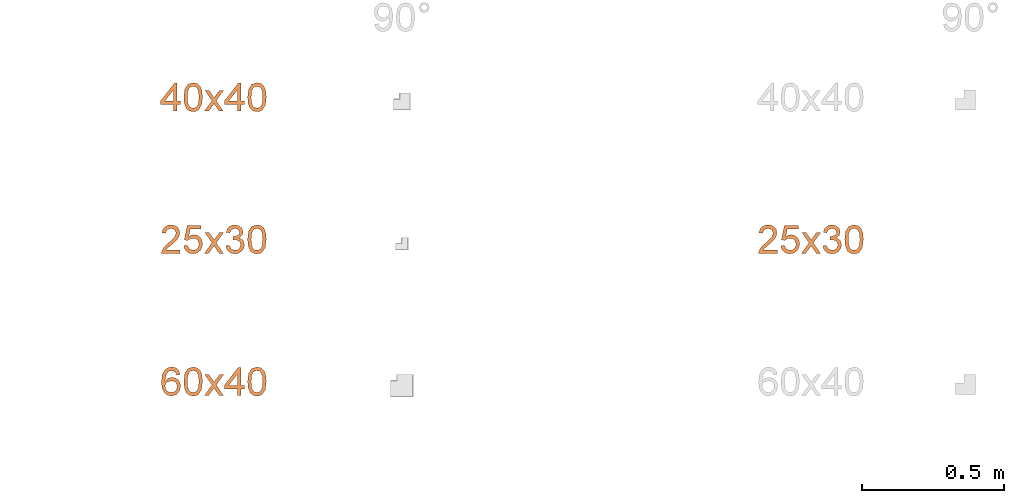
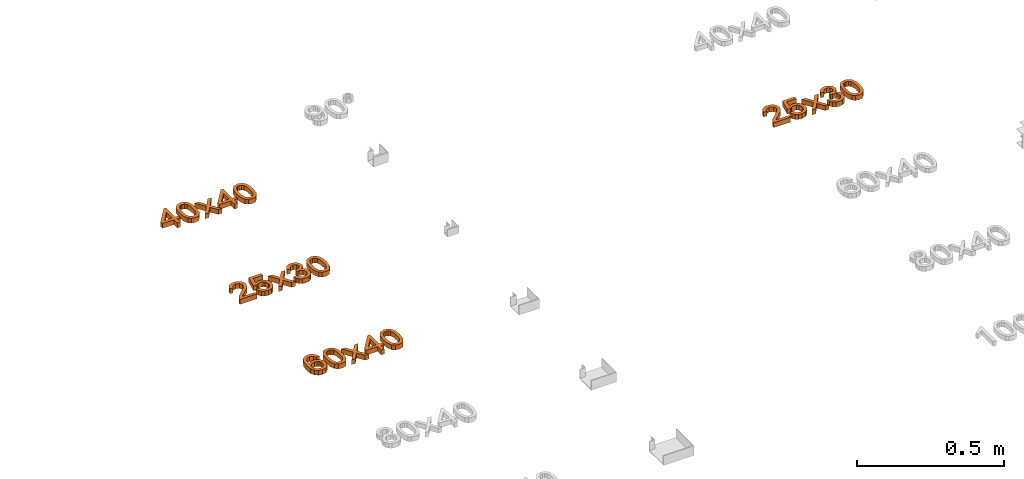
# One storey, part 49 of 71: 4 proxies.
"""IFC2X3 building model written with IfcOpenShell, lengths in millimetres."""

import ifcopenshell
import ifcopenshell.guid

model = None  # the IFC model being written
_history = None  # IfcOwnerHistory: only IFC2X3 demands one
_inside = {}  # id of a spatial element -> (the spatial element, [elements in it])
_under = {}  # id of a project, library or spatial element -> (it, [spatial elements below it])
_declared = {}  # id of a project -> (the project, [libraries it declares])
_typed = {}  # id of a type object -> (the type object, [elements of that type])
_made_of = {}  # id of a material, layer set ... -> (it, [elements and type objects made of it])


def new_model(schema):
    """Start an empty IFC model of exactly this schema.

    Asked for "IFC4X3", IfcOpenShell would pick the latest addendum, in which some entities
    have other attributes; the version numbers below select the first issue.
    IFC2X3 requires an IfcOwnerHistory on every rooted entity: one is made here for all.
    """
    global model, _history
    if schema == "IFC4X3":
        model = ifcopenshell.file(schema_version=(4, 3, 0, 0))
    else:
        model = ifcopenshell.file(schema=schema)
    _inside.clear()
    _under.clear()
    _declared.clear()
    _typed.clear()
    _made_of.clear()
    _history = None
    if model.schema == "IFC2X3":
        org = make("IfcOrganization", Name="unknown")
        user = make(
            "IfcPersonAndOrganization",
            ThePerson=make("IfcPerson", FamilyName="unknown"),
            TheOrganization=org,
        )
        app = make(
            "IfcApplication",
            ApplicationDeveloper=org,
            Version="unknown",
            ApplicationFullName="unknown",
            ApplicationIdentifier="unknown",
        )
        _history = make(
            "IfcOwnerHistory",
            OwningUser=user,
            OwningApplication=app,
            ChangeAction="ADDED",
            CreationDate=0,
        )
    return model


def make(cls, **values):
    """One entity of the class cls with the attributes given. An attribute that is None is left unset."""
    return model.create_entity(
        cls, **{name: value for name, value in values.items() if value is not None}
    )


def entity(cls, *values):
    """Any entity or typed value of the class cls, its attributes in the order of the schema. None: left unset."""
    e = model.create_entity(cls)
    for i, value in enumerate(values):
        if value is not None:
            e[i] = value
    return e


def rooted(cls, **values):
    """An entity with a GlobalId (a new one), such as an element, a storey or a relation."""
    return make(cls, GlobalId=ifcopenshell.guid.new(), OwnerHistory=_history, **values)


def si_unit(unit_type, name, prefix=None):
    """IfcSIUnit, for example si_unit("LENGTHUNIT", "METRE", prefix="MILLI")."""
    return make("IfcSIUnit", UnitType=unit_type, Prefix=prefix, Name=name)


def converted_unit(unit_type, name, factor, base, dimensions=None, offset=None):
    """IfcConversionBasedUnit, such as the inch: factor (a typed value) times the base unit."""
    return make(
        "IfcConversionBasedUnit"
        if offset is None
        else "IfcConversionBasedUnitWithOffset",
        ConversionOffset=offset,
        Dimensions=None
        if dimensions is None
        else entity("IfcDimensionalExponents", *dimensions),
        UnitType=unit_type,
        Name=name,
        ConversionFactor=make(
            "IfcMeasureWithUnit", ValueComponent=factor, UnitComponent=base
        ),
    )


def derived_unit(unit_type, elements):
    """IfcDerivedUnit: a product of units, each with its exponent."""
    return make(
        "IfcDerivedUnit",
        Elements=[
            make("IfcDerivedUnitElement", Unit=unit, Exponent=power)
            for unit, power in elements
        ],
        UnitType=unit_type,
    )


def assignment(units):
    """IfcUnitAssignment: the units of a project."""
    return None if units is None else make("IfcUnitAssignment", Units=units)


def point(xyz):
    """IfcCartesianPoint."""
    return None if xyz is None else make("IfcCartesianPoint", Coordinates=xyz)


def direction(xyz):
    """IfcDirection."""
    return None if xyz is None else make("IfcDirection", DirectionRatios=xyz)


def frame(location, z_axis=None, x_axis=None):
    """IfcAxis2Placement3D, a coordinate frame: its origin and axes. An axis left out is left unset."""
    return make(
        "IfcAxis2Placement3D",
        Location=point(location),
        Axis=direction(z_axis),
        RefDirection=direction(x_axis),
    )


def origin():
    """The frame at (0, 0, 0) with its axes left unset."""
    return frame((0.0, 0.0, 0.0))


def place(relative_to, where):
    """IfcLocalPlacement: puts the frame where relative to a parent placement (None: the world)."""
    return make(
        "IfcLocalPlacement", PlacementRelTo=relative_to, RelativePlacement=where
    )


def context(
    kind, dimensions, precision=None, world=None, true_north=None, identifier=None
):
    """IfcGeometricRepresentationContext, for example the 3D "Model" context."""
    return make(
        "IfcGeometricRepresentationContext",
        ContextIdentifier=identifier,
        ContextType=kind,
        CoordinateSpaceDimension=dimensions,
        Precision=precision,
        WorldCoordinateSystem=world,
        TrueNorth=true_north,
    )


def subcontext(parent, identifier, kind, view, scale=None):
    """IfcGeometricRepresentationSubContext, for example "Body" below "Model"."""
    return make(
        "IfcGeometricRepresentationSubContext",
        ContextIdentifier=identifier,
        ContextType=kind,
        ParentContext=parent,
        TargetScale=scale,
        TargetView=view,
    )


def project(units=None, contexts=None):
    """IfcProject with its units and contexts."""
    return rooted(
        "IfcProject",
        Name="project",
        RepresentationContexts=contexts,
        UnitsInContext=assignment(units),
    )


def spatial(cls, under=None, at=None, **own):
    """A site, building, storey or space (cls), placed at a placement, below another one or the project."""
    s = rooted(cls, ObjectPlacement=at, **own)
    if under is not None:
        _under.setdefault(under.id(), (under, []))[1].append(s)
    return s


def polyline(points):
    """IfcPolyline through the points."""
    return make("IfcPolyline", Points=[point(p) for p in points])


def outline(outer, holes=None, kind="AREA"):
    """IfcArbitraryClosedProfileDef: a profile drawn as a closed curve; with holes, ...WithVoids."""
    if holes is None:
        return make("IfcArbitraryClosedProfileDef", ProfileType=kind, OuterCurve=outer)
    return make(
        "IfcArbitraryProfileDefWithVoids",
        ProfileType=kind,
        OuterCurve=outer,
        InnerCurves=holes,
    )


def extrude(swept, where, along, depth):
    """IfcExtrudedAreaSolid: the profile swept, set in the frame where, extruded along a direction by depth."""
    return make(
        "IfcExtrudedAreaSolid",
        SweptArea=swept,
        Position=where,
        ExtrudedDirection=direction(along),
        Depth=depth,
    )


def shape(context_of_items, identifier, shape_type, items):
    """IfcShapeRepresentation: the items that make up one representation, for example the "Body"."""
    return make(
        "IfcShapeRepresentation",
        ContextOfItems=context_of_items,
        RepresentationIdentifier=identifier,
        RepresentationType=shape_type,
        Items=items,
    )


def made_of(thing, what):
    """Note that an element or type object is made of a material, layer set ...; save() writes the relation."""
    if what is not None:
        _made_of.setdefault(what.id(), (what, []))[1].append(thing)
    return thing


def element(
    cls,
    number,
    at=None,
    inside=None,
    cuts=None,
    type_object=None,
    material=None,
    context=None,
    identifier="Body",
    shape_type=None,
    held_by="IfcProductDefinitionShape",
    body=None,
    shapes=None,
    **own,
):
    """One element of the class cls, such as IfcWall. Its Tag is "e" and its number.

    at: its placement. inside: the storey or other place that contains it. cuts: it is an
    opening in that element (IfcRelVoidsElement). A single representation is given by context,
    identifier, shape_type and body (its items); several are given by shapes. held_by: the class
    of the entity that holds the representations. save() writes the other relations.
    """
    e = rooted(cls, Tag="e%d" % number, ObjectPlacement=at, **own)
    if body is not None:
        shapes = [shape(context, identifier, shape_type, body)]
    if shapes is not None:
        e.Representation = make(held_by, Representations=shapes)
    if inside is not None:
        _inside.setdefault(inside.id(), (inside, []))[1].append(e)
    if cuts is not None:
        rooted(
            "IfcRelVoidsElement", RelatingBuildingElement=cuts, RelatedOpeningElement=e
        )
    if type_object is not None:
        _typed.setdefault(type_object.id(), (type_object, []))[1].append(e)
    return made_of(e, material)


def aggregate(whole, parts):
    """IfcRelAggregates: a whole, such as a stair, and the parts it consists of."""
    return rooted("IfcRelAggregates", RelatingObject=whole, RelatedObjects=parts)


def save(model, path):
    """Write the relations noted so far, then the file.

    IfcRelAggregates (storeys below a building ...), IfcRelContainedInSpatialStructure (elements
    in a storey), IfcRelDefinesByType, IfcRelAssociatesMaterial and IfcRelDeclares: one each for
    every whole, place, type object, material and project.
    """
    for whole, parts in _under.values():
        aggregate(whole, parts)
    for where, things in _inside.values():
        rooted(
            "IfcRelContainedInSpatialStructure",
            RelatedElements=things,
            RelatingStructure=where,
        )
    for kind, things in _typed.values():
        rooted("IfcRelDefinesByType", RelatedObjects=things, RelatingType=kind)
    for what, things in _made_of.values():
        rooted("IfcRelAssociatesMaterial", RelatedObjects=things, RelatingMaterial=what)
    for by, libraries in _declared.values():
        rooted("IfcRelDeclares", RelatingContext=by, RelatedDefinitions=libraries)
    model.write(path)


model = new_model("IFC2X3")

# Units and contexts
model_context = context("Model", 3, precision=0.01, world=origin(), true_north=direction((6.12303176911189e-17, 1.0)))
body_context = subcontext(model_context, "Body", "Model", "MODEL_VIEW")
ifc_project = project(units=[si_unit("LENGTHUNIT", "METRE", prefix="MILLI"), si_unit("AREAUNIT", "SQUARE_METRE"), si_unit("VOLUMEUNIT", "CUBIC_METRE"), converted_unit("PLANEANGLEUNIT", "DEGREE", entity("IfcRatioMeasure", 0.0174532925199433), si_unit("PLANEANGLEUNIT", "RADIAN"), dimensions=[0, 0, 0, 0, 0, 0, 0]), si_unit("MASSUNIT", "GRAM", prefix="KILO"), derived_unit("MASSDENSITYUNIT", [(si_unit("MASSUNIT", "GRAM", prefix="KILO"), 1), (si_unit("LENGTHUNIT", "METRE"), -3)]), si_unit("TIMEUNIT", "SECOND"), si_unit("FREQUENCYUNIT", "HERTZ"), si_unit("THERMODYNAMICTEMPERATUREUNIT", "DEGREE_CELSIUS"), derived_unit("THERMALTRANSMITTANCEUNIT", [(si_unit("MASSUNIT", "GRAM", prefix="KILO"), 1), (si_unit("THERMODYNAMICTEMPERATUREUNIT", "KELVIN"), -1), (si_unit("TIMEUNIT", "SECOND"), -3)]), derived_unit("VOLUMETRICFLOWRATEUNIT", [(si_unit("LENGTHUNIT", "METRE"), 3), (si_unit("TIMEUNIT", "SECOND"), -1)]), si_unit("ELECTRICCURRENTUNIT", "AMPERE"), si_unit("ELECTRICVOLTAGEUNIT", "VOLT"), si_unit("POWERUNIT", "WATT"), si_unit("FORCEUNIT", "NEWTON", prefix="KILO"), si_unit("ILLUMINANCEUNIT", "LUX"), si_unit("LUMINOUSFLUXUNIT", "LUMEN"), si_unit("LUMINOUSINTENSITYUNIT", "CANDELA"), derived_unit("USERDEFINED", [(si_unit("MASSUNIT", "GRAM", prefix="KILO"), -1), (si_unit("LENGTHUNIT", "METRE"), -2), (si_unit("TIMEUNIT", "SECOND"), 3), (si_unit("LUMINOUSFLUXUNIT", "LUMEN"), 1)]), derived_unit("LINEARVELOCITYUNIT", [(si_unit("LENGTHUNIT", "METRE"), 1), (si_unit("TIMEUNIT", "SECOND"), -1)]), si_unit("PRESSUREUNIT", "PASCAL"), derived_unit("USERDEFINED", [(si_unit("LENGTHUNIT", "METRE"), -2), (si_unit("MASSUNIT", "GRAM", prefix="KILO"), 1), (si_unit("TIMEUNIT", "SECOND"), -2)])], contexts=[model_context])

# Site, building, storey
site_placement = place(None, origin())
site = spatial("IfcSite", under=ifc_project, at=site_placement, Name="Default", CompositionType="ELEMENT")
building_placement = place(site_placement, origin())
building = spatial("IfcBuilding", under=site, at=building_placement, Name="Наименование здания", CompositionType="ELEMENT")
storey_placement = place(building_placement, origin())
storey = spatial("IfcBuildingStorey", under=building, at=storey_placement, Name="Этаж 01", CompositionType="ELEMENT", Elevation=0.0)

# Proxies
proxy_1_placement = place(storey_placement, origin())
element("IfcBuildingElementProxy", 1, at=proxy_1_placement, inside=storey, Name="Текст модели:100 мм Arial", ObjectType="Текст модели:100 мм Arial", context=body_context, shape_type="SweptSolid", body=[
    extrude(outline(polyline([(-1.14154897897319, -36.3868737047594), (11.4154897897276, -36.3868737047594), (11.4154897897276, -12.8424260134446), (23.9725285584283, -12.8424260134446), (23.9725285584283, -0.285387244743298), (11.4154897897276, -0.285387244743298), (11.4154897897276, 62.4998065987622), (1.99771071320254, 62.4998065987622), (-46.6608145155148, -0.285387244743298), (-46.6608145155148, -12.8424260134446), (-1.14154897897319, -12.8424260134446), (-1.14154897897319, -36.3868737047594)]), holes=[polyline([(-1.14154897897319, -0.285387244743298), (-31.20977071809, -0.285387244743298), (-1.14154897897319, 38.5139005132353), (-1.14154897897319, -0.285387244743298)])]), frame((13000.8514616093, 3073.05161790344, 0.0)), (0.0, 0.0, 1.0), 20.0),
    extrude(outline(polyline([(-7.02884310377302, -33.3490673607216), (17.5323805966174, -33.3490673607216), (35.198417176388, -27.6137612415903), (43.3439841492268, -18.4876517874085), (47.051694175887, -5.75150665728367), (46.7162020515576, 4.48638208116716), (43.4465778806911, 13.0955287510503), (27.9444305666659, 25.6659118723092), (-0.314338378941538, 32.2325535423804), (-24.0296505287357, 32.3678288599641), (-39.4143020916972, 28.0260881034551), (-49.7293680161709, 18.9002174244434), (-54.4436715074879, 4.63998875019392), (-50.8676582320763, -14.1301059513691), (-35.4058547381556, -26.7333390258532), (-7.02884310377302, -33.3490673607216)]), holes=[polyline([(-5.7742877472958, -20.8548320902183), (-25.0157644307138, -17.3562860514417), (-36.7257089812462, -11.5717922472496), (-41.0962588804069, -4.77599682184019), (-41.9669219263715, 3.21464792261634), (-39.2244253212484, 11.2791292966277), (-32.8654063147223, 17.2229259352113), (-20.9698370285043, 20.2947501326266), (-1.61768958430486, 19.7433141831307), (17.8514140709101, 16.2707701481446), (28.7803640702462, 10.7141596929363), (33.5546988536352, 3.61815959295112), (34.55995686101, -4.47255337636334), (31.9421230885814, -12.1923199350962), (25.8471825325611, -18.175480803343), (14.0250679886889, -21.4027476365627), (-5.7742877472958, -20.8548320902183)])]), frame((13069.7029366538, 3082.48792113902, 0.0), z_axis=(0.0, 0.0, 1.0), x_axis=(0.1018515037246, -0.994799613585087, 0.0)), (0.0, 0.0, 1.0), 20.0),
    extrude(outline(polyline([(-34.530221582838, -38.4265006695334), (-19.422534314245, -38.4265006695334), (-0.341721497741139, -12.0616243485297), (2.47870713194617, -16.1328517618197), (17.8561745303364, -38.4265006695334), (32.9638617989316, -38.4265006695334), (7.40832586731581, -1.34399555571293), (33.944880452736, 35.3461020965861), (18.8371931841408, 35.3461020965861), (4.95577923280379, 16.1671874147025), (0.0261604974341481, 9.34910777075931), (-5.66374769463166, 17.6877663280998), (-17.8529044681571, 35.3461020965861), (-32.9605917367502, 35.3461020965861), (-7.6993614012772, -1.34399555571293), (-34.530221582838, -38.4265006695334)])), frame((13142.5445935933, 3075.09124486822, 0.0)), (0.0, 0.0, 1.0), 20.0),
    extrude(outline(polyline([(-1.14154897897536, -36.3868737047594), (11.4154897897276, -36.3868737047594), (11.4154897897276, -12.8424260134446), (23.9725285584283, -12.8424260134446), (23.9725285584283, -0.285387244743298), (11.4154897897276, -0.285387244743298), (11.4154897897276, 62.4998065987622), (1.99771071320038, 62.4998065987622), (-46.660814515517, -0.285387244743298), (-46.660814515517, -12.8424260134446), (-1.14154897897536, -12.8424260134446), (-1.14154897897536, -36.3868737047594)]), holes=[polyline([(-1.14154897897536, -0.285387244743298), (-31.20977071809, -0.285387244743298), (-1.14154897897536, 38.5139005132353), (-1.14154897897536, -0.285387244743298)])]), frame((13225.3085295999, 3073.05161790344, 0.0)), (0.0, 0.0, 1.0), 20.0),
    extrude(outline(polyline([(-7.02884310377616, -33.3490673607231), (17.5323805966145, -33.3490673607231), (35.1984171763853, -27.6137612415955), (43.343984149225, -18.4876517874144), (47.0516941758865, -5.75150665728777), (46.716202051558, 4.48638208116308), (43.4465778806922, 13.0955287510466), (27.9444305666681, 25.6659118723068), (-0.314338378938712, 32.2325535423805), (-24.0296505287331, 32.367828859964), (-39.4143020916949, 28.0260881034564), (-49.7293680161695, 18.9002174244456), (-54.4436715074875, 4.63998875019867), (-50.8676582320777, -14.1301059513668), (-35.405854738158, -26.7333390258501), (-7.02884310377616, -33.3490673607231)]), holes=[polyline([(-5.77428774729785, -20.85483209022), (-25.0157644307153, -17.3562860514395), (-36.7257089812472, -11.5717922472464), (-41.0962588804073, -4.77599682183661), (-41.9669219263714, 3.21464792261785), (-39.2244253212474, 11.2791292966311), (-32.8654063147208, 17.2229259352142), (-20.9698370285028, 20.2947501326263), (-1.61768958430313, 19.7433141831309), (17.8514140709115, 16.2707701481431), (28.7803640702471, 10.7141596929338), (33.5546988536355, 3.61815959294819), (34.5599568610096, -4.47255337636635), (31.9421230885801, -12.1923199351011), (25.8471825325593, -18.1754808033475), (14.0250679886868, -21.4027476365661), (-5.77428774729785, -20.85483209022)])]), frame((13294.1600046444, 3082.48792113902, 0.0), z_axis=(0.0, 0.0, 1.0), x_axis=(0.101851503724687, -0.994799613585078, 0.0)), (0.0, 0.0, 1.0), 20.0),
])
proxy_2_placement = place(storey_placement, origin())
element("IfcBuildingElementProxy", 2, at=proxy_2_placement, inside=storey, Name="Текст модели:100 мм Arial", ObjectType="Текст модели:100 мм Arial", context=body_context, shape_type="SweptSolid", body=[
    extrude(outline(polyline([(-32.385878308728, -45.1669477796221), (-32.385878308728, -57.7239865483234), (33.5385752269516, -57.7239865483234), (32.1896745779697, -49.0664969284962), (24.5622545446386, -35.7369059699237), (8.84143061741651, -21.1810416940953), (-12.8390816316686, -0.26081890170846), (-18.2592096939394, 13.9639515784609), (-13.1456499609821, 25.4786580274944), (0.208466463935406, 30.1752848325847), (14.1266686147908, 25.5890226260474), (19.4119066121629, 12.9093565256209), (31.9689453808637, 14.4789863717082), (28.9247218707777, 26.6252235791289), (22.3426998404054, 35.4973110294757), (12.5662358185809, 40.9235704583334), (-0.0613136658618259, 42.732323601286), (-12.7808336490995, 40.721235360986), (-22.5389035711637, 34.6879706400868), (-28.746912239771, 25.6748617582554), (-30.8162484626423, 14.7242410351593), (-28.5844310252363, 2.81712712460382), (-21.1654774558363, -9.49465698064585), (-3.17604789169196, -26.6992716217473), (11.2694517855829, -38.7780637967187), (16.9348345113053, -45.1669477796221), (-32.385878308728, -45.1669477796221)])), frame((12990.868482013, 2594.38873074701, 0.0), z_axis=(0.0, 0.0, -1.0), x_axis=(-1.0, 0.0, 0.0)), (0.0, 0.0, -1.0), 20.0),
    extrude(outline(polyline([(3.81439562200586, -37.2548959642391), (15.7323946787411, -37.2548959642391), (26.1588137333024, -33.0579698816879), (34.2921694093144, -25.0537205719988), (39.3309783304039, -13.6317508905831), (40.2219288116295, 1.43409098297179), (34.3991305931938, 14.6815107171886), (25.5350217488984, 23.1481891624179), (13.9054384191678, 28.277097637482), (0.912111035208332, 29.4702838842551), (-10.7159258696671, 25.7768606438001), (-19.7427074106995, 18.0989984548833), (-24.9322687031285, 7.33886785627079), (-25.5937300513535, -2.21124798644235), (-22.6370240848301, -12.2793380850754), (-47.9924930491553, 0.0204883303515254), (-38.0977082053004, 37.2324069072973), (-50.2330599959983, 40.459241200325), (-62.7370428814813, -6.56524698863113), (-15.5021967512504, -30.4943712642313), (-10.7584434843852, -18.7623737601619), (-14.421629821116, -10.4922324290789), (-13.6981616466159, 0.722667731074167), (-9.98738154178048, 9.35727561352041), (-4.32553373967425, 14.6878856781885), (11.4370636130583, 15.94006870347), (19.748168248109, 12.2772427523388), (25.4355726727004, 6.40632241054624), (28.0665145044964, -1.27212018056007), (27.2082313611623, -10.357512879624), (19.6530635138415, -21.9256319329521), (5.5243109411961, -24.7161898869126), (3.81439562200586, -37.2548959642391)])), frame((13070.8350104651, 2576.60829824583, 0.0), z_axis=(0.0, 0.0, 1.0), x_axis=(0.256974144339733, -0.966418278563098, 0.0)), (0.0, 0.0, 1.0), 20.0),
    extrude(outline(polyline([(-34.530221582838, -38.4265006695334), (-19.422534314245, -38.4265006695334), (-0.341721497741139, -12.0616243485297), (2.47870713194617, -16.1328517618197), (17.8561745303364, -38.4265006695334), (32.9638617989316, -38.4265006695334), (7.40832586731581, -1.34399555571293), (33.944880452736, 35.3461020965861), (18.8371931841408, 35.3461020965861), (4.95577923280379, 16.1671874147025), (0.0261604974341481, 9.34910777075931), (-5.66374769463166, 17.6877663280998), (-17.8529044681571, 35.3461020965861), (-32.9605917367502, 35.3461020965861), (-7.6993614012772, -1.34399555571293), (-34.530221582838, -38.4265006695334)])), frame((13142.5445935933, 2575.09124486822, 0.0)), (0.0, 0.0, 1.0), 20.0),
    extrude(outline(polyline([(12.9398224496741, -39.4228746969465), (24.7070155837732, -39.4228746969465), (35.2334179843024, -35.1796885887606), (43.5392113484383, -27.2068749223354), (48.6445773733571, -16.0179922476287), (49.966729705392, -2.46420805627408), (46.1713151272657, 9.85942403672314), (38.2123508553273, 19.5155094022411), (27.0438541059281, 25.0666534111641), (10.0202742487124, 24.7454624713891), (-1.87398827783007, 13.8140826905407), (-7.17156856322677, 25.9452321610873), (-17.4163250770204, 32.3622268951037), (-30.6023287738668, 32.1723416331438), (-42.484476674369, 24.4416767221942), (-49.808688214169, 10.7455169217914), (-51.019451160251, -0.289536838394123), (-48.3411699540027, -10.3555163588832), (-41.9598673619, -18.9246782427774), (-32.0615661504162, -25.4692790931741), (-27.2304373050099, -13.772991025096), (-36.9582136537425, -4.72585730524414), (-37.5811201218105, 7.85403171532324), (-30.7090409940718, 18.2284262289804), (-20.0239599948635, 20.0569105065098), (-14.1616694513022, 16.8110341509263), (-11.00385415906, 11.025610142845), (-11.291001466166, -3.66989129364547), (-11.9642066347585, -5.57066078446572), (-0.222565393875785, -10.2362102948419), (0.778769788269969, -1.38153044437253), (9.5051151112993, 11.0278528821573), (23.5137057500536, 13.0140189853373), (35.3107062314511, 3.90868905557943), (37.5820165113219, -3.60465058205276), (36.6502541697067, -12.2749561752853), (29.3231481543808, -23.707156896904), (14.743214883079, -26.8972714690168), (12.9398224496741, -39.4228746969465)])), frame((13217.9605854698, 2586.2431357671, 0.0), z_axis=(0.0, 0.0, 1.0), x_axis=(0.264175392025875, -0.964474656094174, 0.0)), (0.0, 0.0, 1.0), 20.0),
    extrude(outline(polyline([(-7.02884310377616, -33.3490673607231), (17.5323805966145, -33.3490673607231), (35.1984171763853, -27.6137612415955), (43.343984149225, -18.4876517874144), (47.0516941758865, -5.75150665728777), (46.716202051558, 4.48638208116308), (43.4465778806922, 13.0955287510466), (27.9444305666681, 25.6659118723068), (-0.314338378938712, 32.2325535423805), (-24.0296505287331, 32.367828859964), (-39.4143020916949, 28.0260881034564), (-49.7293680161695, 18.9002174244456), (-54.4436715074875, 4.63998875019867), (-50.8676582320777, -14.1301059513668), (-35.405854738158, -26.7333390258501), (-7.02884310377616, -33.3490673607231)]), holes=[polyline([(-5.77428774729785, -20.85483209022), (-25.0157644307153, -17.3562860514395), (-36.7257089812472, -11.5717922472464), (-41.0962588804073, -4.77599682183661), (-41.9669219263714, 3.21464792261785), (-39.2244253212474, 11.2791292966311), (-32.8654063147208, 17.2229259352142), (-20.9698370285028, 20.2947501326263), (-1.61768958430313, 19.7433141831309), (17.8514140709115, 16.2707701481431), (28.7803640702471, 10.7141596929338), (33.5546988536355, 3.61815959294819), (34.5599568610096, -4.47255337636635), (31.9421230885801, -12.1923199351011), (25.8471825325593, -18.1754808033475), (14.0250679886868, -21.4027476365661), (-5.77428774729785, -20.85483209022)])]), frame((13294.1600046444, 2582.48792113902, 0.0), z_axis=(0.0, 0.0, 1.0), x_axis=(0.101851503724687, -0.994799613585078, 0.0)), (0.0, 0.0, 1.0), 20.0),
])
proxy_3_placement = place(storey_placement, origin())
element("IfcBuildingElementProxy", 3, at=proxy_3_placement, inside=storey, Name="Текст модели:100 мм Arial", ObjectType="Текст модели:100 мм Arial", context=body_context, shape_type="SweptSolid", body=[
    extrude(outline(polyline([(6.79275401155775, -32.5027761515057), (18.3659045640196, -32.5027761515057), (28.1525204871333, -28.8011371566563), (35.6312934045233, -21.7178704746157), (40.2809149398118, -11.5729874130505), (41.4130789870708, 3.23667074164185), (36.1391243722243, 16.3729018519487), (21.8599739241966, 28.8803269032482), (-1.50836821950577, 38.2054593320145), (-23.6059131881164, 41.7609274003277), (-39.9814227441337, 38.5965283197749), (-51.1650797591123, 29.9216784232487), (-57.6870671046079, 16.9457940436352), (-57.9805556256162, -0.0494879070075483), (-49.2081886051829, -14.3141019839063), (-33.6167855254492, -22.9350568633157), (-20.6265742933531, -24.2502330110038), (-8.9780035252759, -20.6254922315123), (0.0919027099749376, -13.035096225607), (5.34612034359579, -2.4533066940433), (5.85483161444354, 11.6447254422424), (-0.843339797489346, 24.991063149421), (19.770767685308, 15.5765036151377), (28.484099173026, 4.2676616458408), (28.3893512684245, -7.46374532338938), (19.9956250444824, -18.1936336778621), (8.63303585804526, -19.9825396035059), (6.79275401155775, -32.5027761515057)]), holes=[polyline([(-18.7586717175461, 29.9549594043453), (-11.6328110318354, 26.3613362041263), (-6.94154076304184, 20.2038317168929), (-5.85783236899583, 4.13761066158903), (-9.48331864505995, -3.95286412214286), (-15.1077394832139, -9.2690164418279), (-22.3091633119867, -11.5969098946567), (-30.6656585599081, -10.7226080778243), (-38.6094491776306, -7.06141592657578), (-43.8637090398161, -1.22509865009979), (-46.1835287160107, 6.17768396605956), (-45.3239987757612, 14.5382721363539), (-39.6901171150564, 24.7221971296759), (-30.0168134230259, 30.0585493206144), (-18.7586717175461, 29.9549594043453)])]), frame((12993.7454554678, 2095.21248246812, 0.0), z_axis=(0.0, 0.0, 1.0), x_axis=(-0.267015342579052, 0.963692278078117, 0.0)), (0.0, 0.0, 1.0), 20.0),
    extrude(outline(polyline([(-7.02884310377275, -33.3490673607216), (17.5323805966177, -33.3490673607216), (35.1984171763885, -27.6137612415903), (43.3439841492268, -18.4876517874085), (47.051694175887, -5.75150665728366), (46.7162020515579, 4.48638208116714), (43.4465778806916, 13.0955287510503), (27.9444305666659, 25.6659118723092), (-0.314338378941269, 32.2325535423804), (-24.0296505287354, 32.367828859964), (-39.4143020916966, 28.026088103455), (-49.7293680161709, 18.9002174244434), (-54.4436715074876, 4.63998875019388), (-50.8676582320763, -14.1301059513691), (-35.4058547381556, -26.7333390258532), (-7.02884310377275, -33.3490673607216)]), holes=[polyline([(-5.77428774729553, -20.8548320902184), (-25.0157644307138, -17.3562860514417), (-36.7257089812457, -11.5717922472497), (-41.0962588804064, -4.77599682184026), (-41.9669219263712, 3.2146479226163), (-39.2244253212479, 11.2791292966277), (-32.8654063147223, 17.2229259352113), (-20.9698370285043, 20.2947501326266), (-1.61768958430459, 19.7433141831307), (17.8514140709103, 16.2707701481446), (28.7803640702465, 10.7141596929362), (33.5546988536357, 3.61815959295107), (34.5599568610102, -4.47255337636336), (31.9421230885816, -12.1923199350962), (25.8471825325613, -18.1754808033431), (14.0250679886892, -21.4027476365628), (-5.77428774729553, -20.8548320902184)])]), frame((13069.7029366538, 2082.48792113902, 0.0), z_axis=(0.0, 0.0, 1.0), x_axis=(0.1018515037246, -0.994799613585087, 0.0)), (0.0, 0.0, 1.0), 20.0),
    extrude(outline(polyline([(-34.530221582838, -38.4265006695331), (-19.422534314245, -38.4265006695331), (-0.341721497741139, -12.0616243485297), (2.47870713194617, -16.1328517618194), (17.8561745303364, -38.4265006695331), (32.9638617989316, -38.4265006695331), (7.40832586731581, -1.34399555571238), (33.944880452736, 35.3461020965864), (18.8371931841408, 35.3461020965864), (4.95577923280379, 16.1671874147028), (0.0261604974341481, 9.34910777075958), (-5.66374769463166, 17.6877663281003), (-17.8529044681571, 35.3461020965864), (-32.9605917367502, 35.3461020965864), (-7.6993614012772, -1.34399555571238), (-34.530221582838, -38.4265006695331)])), frame((13142.5445935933, 2075.09124486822, 0.0)), (0.0, 0.0, 1.0), 20.0),
    extrude(outline(polyline([(-1.14154897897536, -36.3868737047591), (11.4154897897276, -36.3868737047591), (11.4154897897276, -12.8424260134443), (23.9725285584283, -12.8424260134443), (23.9725285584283, -0.285387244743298), (11.4154897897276, -0.285387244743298), (11.4154897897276, 62.4998065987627), (1.99771071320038, 62.4998065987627), (-46.660814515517, -0.285387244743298), (-46.660814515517, -12.8424260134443), (-1.14154897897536, -12.8424260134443), (-1.14154897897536, -36.3868737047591)]), holes=[polyline([(-1.14154897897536, -0.285387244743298), (-31.20977071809, -0.285387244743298), (-1.14154897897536, 38.5139005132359), (-1.14154897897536, -0.285387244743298)])]), frame((13225.3085295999, 2073.05161790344, 0.0)), (0.0, 0.0, 1.0), 20.0),
    extrude(outline(polyline([(-7.02884310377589, -33.3490673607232), (17.5323805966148, -33.3490673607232), (35.1984171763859, -27.6137612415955), (43.343984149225, -18.4876517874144), (47.0516941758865, -5.75150665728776), (46.7162020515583, 4.48638208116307), (43.4465778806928, 13.0955287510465), (27.9444305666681, 25.6659118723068), (-0.314338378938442, 32.2325535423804), (-24.0296505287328, 32.367828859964), (-39.4143020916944, 28.0260881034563), (-49.7293680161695, 18.9002174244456), (-54.4436715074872, 4.63998875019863), (-50.8676582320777, -14.1301059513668), (-35.405854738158, -26.7333390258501), (-7.02884310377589, -33.3490673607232)]), holes=[polyline([(-5.77428774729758, -20.85483209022), (-25.0157644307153, -17.3562860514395), (-36.7257089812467, -11.5717922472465), (-41.0962588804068, -4.77599682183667), (-41.9669219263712, 3.21464792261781), (-39.2244253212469, 11.2791292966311), (-32.8654063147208, 17.2229259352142), (-20.9698370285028, 20.2947501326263), (-1.61768958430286, 19.7433141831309), (17.8514140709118, 16.270770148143), (28.7803640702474, 10.7141596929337), (33.554698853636, 3.61815959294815), (34.5599568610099, -4.47255337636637), (31.9421230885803, -12.1923199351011), (25.8471825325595, -18.1754808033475), (14.0250679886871, -21.4027476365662), (-5.77428774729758, -20.85483209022)])]), frame((13294.1600046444, 2082.48792113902, 0.0), z_axis=(0.0, 0.0, 1.0), x_axis=(0.101851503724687, -0.994799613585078, 0.0)), (0.0, 0.0, 1.0), 20.0),
])
proxy_4_placement = place(storey_placement, origin())
element("IfcBuildingElementProxy", 4, at=proxy_4_placement, inside=storey, Name="Текст модели:100 мм Arial", ObjectType="Текст модели:100 мм Arial", context=body_context, shape_type="SweptSolid", body=[
    extrude(outline(polyline([(-32.3858783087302, -45.1669477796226), (-32.3858783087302, -57.7239865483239), (33.5385752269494, -57.7239865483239), (32.1896745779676, -49.0664969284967), (24.5622545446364, -35.7369059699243), (8.84143061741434, -21.1810416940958), (-12.8390816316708, -0.260818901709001), (-18.2592096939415, 13.9639515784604), (-13.1456499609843, 25.4786580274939), (0.20846646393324, 30.1752848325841), (14.1266686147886, 25.5890226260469), (19.4119066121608, 12.9093565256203), (31.9689453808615, 14.4789863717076), (28.9247218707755, 26.6252235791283), (22.3426998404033, 35.4973110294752), (12.5662358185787, 40.9235704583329), (-0.0613136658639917, 42.7323236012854), (-12.7808336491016, 40.7212353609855), (-22.5389035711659, 34.6879706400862), (-28.7469122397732, 25.6748617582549), (-30.8162484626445, 14.7242410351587), (-28.5844310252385, 2.81712712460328), (-21.1654774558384, -9.49465698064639), (-3.17604789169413, -26.6992716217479), (11.2694517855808, -38.7780637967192), (16.9348345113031, -45.1669477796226), (-32.3858783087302, -45.1669477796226)])), frame((15090.868482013, 2594.388730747, 0.0), z_axis=(0.0, 0.0, -1.0), x_axis=(-1.0, 0.0, 0.0)), (0.0, 0.0, -1.0), 20.0),
    extrude(outline(polyline([(3.81439562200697, -37.2548959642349), (15.7323946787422, -37.2548959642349), (26.1588137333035, -33.0579698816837), (34.2921694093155, -25.0537205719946), (39.330978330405, -13.6317508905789), (40.2219288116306, 1.43409098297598), (34.3991305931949, 14.6815107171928), (25.5350217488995, 23.148189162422), (13.9054384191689, 28.2770976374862), (0.912111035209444, 29.4702838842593), (-10.715925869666, 25.7768606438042), (-19.7427074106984, 18.0989984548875), (-24.9322687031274, 7.33886785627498), (-25.5937300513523, -2.21124798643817), (-22.637024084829, -12.2793380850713), (-47.9924930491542, 0.0204883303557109), (-38.0977082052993, 37.2324069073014), (-50.2330599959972, 40.4592412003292), (-62.7370428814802, -6.56524698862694), (-15.5021967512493, -30.4943712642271), (-10.7584434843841, -18.7623737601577), (-14.4216298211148, -10.4922324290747), (-13.6981616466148, 0.722667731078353), (-9.98738154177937, 9.3572756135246), (-4.32553373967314, 14.6878856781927), (11.4370636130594, 15.9400687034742), (19.7481682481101, 12.277242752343), (25.4355726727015, 6.40632241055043), (28.0665145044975, -1.27212018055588), (27.2082313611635, -10.3575128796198), (19.6530635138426, -21.9256319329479), (5.52431094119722, -24.7161898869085), (3.81439562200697, -37.2548959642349)])), frame((15170.8350104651, 2576.60829824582, 0.0), z_axis=(0.0, 0.0, 1.0), x_axis=(0.256974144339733, -0.966418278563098, 0.0)), (0.0, 0.0, 1.0), 20.0),
    extrude(outline(polyline([(-34.5302215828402, -38.4265006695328), (-19.4225343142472, -38.4265006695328), (-0.341721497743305, -12.0616243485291), (2.478707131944, -16.1328517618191), (17.8561745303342, -38.4265006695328), (32.9638617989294, -38.4265006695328), (7.40832586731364, -1.34399555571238), (33.9448804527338, 35.3461020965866), (18.8371931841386, 35.3461020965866), (4.95577923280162, 16.1671874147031), (0.0261604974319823, 9.34910777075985), (-5.66374769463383, 17.6877663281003), (-17.8529044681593, 35.3461020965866), (-32.9605917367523, 35.3461020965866), (-7.69936140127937, -1.34399555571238), (-34.5302215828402, -38.4265006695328)])), frame((15242.5445935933, 2575.09124486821, 0.0)), (0.0, 0.0, 1.0), 20.0),
    extrude(outline(polyline([(12.9398224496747, -39.4228746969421), (24.7070155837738, -39.4228746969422), (35.2334179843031, -35.1796885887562), (43.5392113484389, -27.206874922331), (48.6445773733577, -16.0179922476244), (49.9667297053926, -2.46420805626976), (46.1713151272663, 9.85942403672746), (38.2123508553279, 19.5155094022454), (27.0438541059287, 25.0666534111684), (10.020274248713, 24.7454624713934), (-1.87398827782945, 13.814082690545), (-7.17156856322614, 25.9452321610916), (-17.4163250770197, 32.3622268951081), (-30.6023287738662, 32.1723416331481), (-42.4844766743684, 24.4416767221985), (-49.8086882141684, 10.7455169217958), (-51.0194511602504, -0.2895368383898), (-48.341169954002, -10.3555163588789), (-41.9598673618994, -18.924678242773), (-32.0615661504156, -25.4692790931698), (-27.2304373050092, -13.7729910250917), (-36.9582136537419, -4.72585730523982), (-37.5811201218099, 7.85403171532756), (-30.7090409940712, 18.2284262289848), (-20.0239599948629, 20.0569105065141), (-14.1616694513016, 16.8110341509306), (-11.0038541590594, 11.0256101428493), (-11.2910014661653, -3.66989129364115), (-11.9642066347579, -5.57066078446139), (-0.222565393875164, -10.2362102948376), (0.778769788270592, -1.38153044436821), (9.50511511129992, 11.0278528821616), (23.5137057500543, 13.0140189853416), (35.3107062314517, 3.90868905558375), (37.5820165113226, -3.60465058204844), (36.6502541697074, -12.274956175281), (29.3231481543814, -23.7071568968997), (14.7432148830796, -26.8972714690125), (12.9398224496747, -39.4228746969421)])), frame((15317.9605854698, 2586.24313576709, 0.0), z_axis=(0.0, 0.0, 1.0), x_axis=(0.264175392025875, -0.964474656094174, 0.0)), (0.0, 0.0, 1.0), 20.0),
    extrude(outline(polyline([(-7.02884310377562, -33.3490673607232), (17.5323805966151, -33.3490673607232), (35.1984171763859, -27.6137612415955), (43.3439841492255, -18.4876517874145), (47.051694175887, -5.75150665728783), (46.7162020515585, 4.48638208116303), (43.4465778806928, 13.0955287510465), (27.9444305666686, 25.6659118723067), (-0.314338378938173, 32.2325535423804), (-24.0296505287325, 32.367828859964), (-39.4143020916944, 28.0260881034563), (-49.729368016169, 18.9002174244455), (-54.4436715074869, 4.63998875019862), (-50.8676582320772, -14.1301059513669), (-35.4058547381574, -26.7333390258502), (-7.02884310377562, -33.3490673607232)]), holes=[polyline([(-5.77428774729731, -20.85483209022), (-25.0157644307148, -17.3562860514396), (-36.7257089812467, -11.5717922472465), (-41.0962588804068, -4.77599682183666), (-41.9669219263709, 3.21464792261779), (-39.2244253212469, 11.2791292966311), (-32.8654063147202, 17.2229259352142), (-20.9698370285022, 20.2947501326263), (-1.61768958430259, 19.7433141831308), (17.851414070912, 16.270770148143), (28.7803640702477, 10.7141596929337), (33.554698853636, 3.61815959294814), (34.5599568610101, -4.47255337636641), (31.9421230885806, -12.1923199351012), (25.8471825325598, -18.1754808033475), (14.0250679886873, -21.4027476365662), (-5.77428774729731, -20.85483209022)])]), frame((15394.1600046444, 2582.48792113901, 0.0), z_axis=(0.0, 0.0, 1.0), x_axis=(0.101851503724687, -0.994799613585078, 0.0)), (0.0, 0.0, 1.0), 20.0),
])

save(model, "model.ifc")
